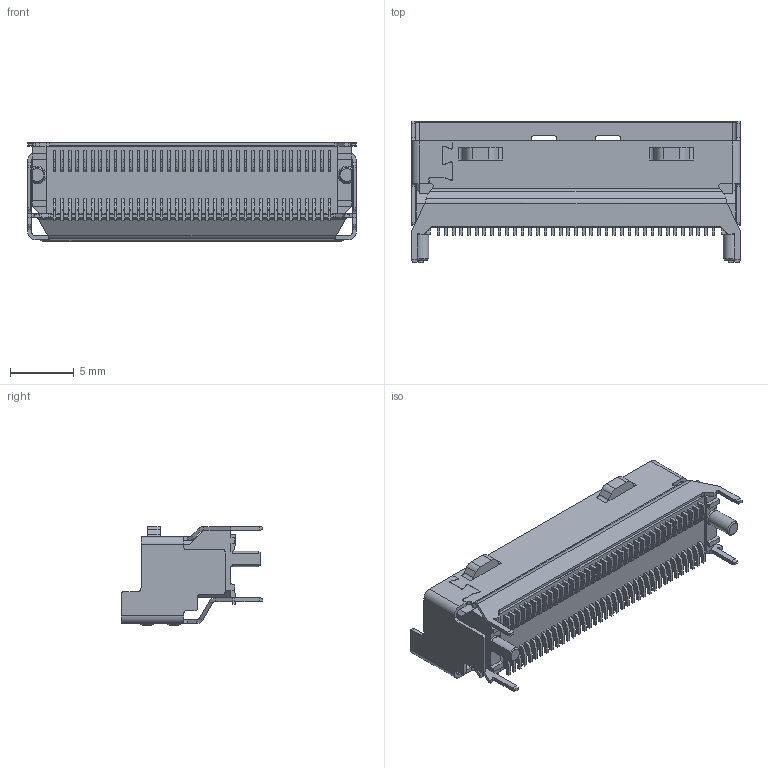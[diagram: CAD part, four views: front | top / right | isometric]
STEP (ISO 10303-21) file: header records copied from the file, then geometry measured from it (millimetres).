
FILE_DESCRIPTION((''),'2;1');
FILE_NAME('PMC074-3X0X-XXX-XH_CUSTOMER_10','2026-07-20T13:52:41',('39002408'),(''),'CREO PARAMETRIC BY PTC INC, 2019471','CREO PARAMETRIC BY PTC INC, 2019471','');
FILE_SCHEMA(('AUTOMOTIVE_DESIGN { 1 0 10303 214 1 1 1 1 }'));
Length unit declared in the file: millimetre
Products named in the file (1): PMC074-3X0X-XXX-XH_CUSTOMER_10
Bounding box: 25.8 x 11.1 x 7.77 mm (x, y, z)
Volume: 780 mm3; surface area: 2069.9 mm2
Topology: 1 solids, 1 shells, 1349 faces, 3626 edges, 2394 vertices
Faces by surface type: plane 1008, cylinder 315, bspline 20, cone 6
Entity records: 42842 total; most frequent: CARTESIAN_POINT 8659, ORIENTED_EDGE 7252, DIRECTION 6582, EDGE_CURVE 3626, VECTOR 2918, LINE 2918, VERTEX_POINT 2394, AXIS2_PLACEMENT_3D 1832
